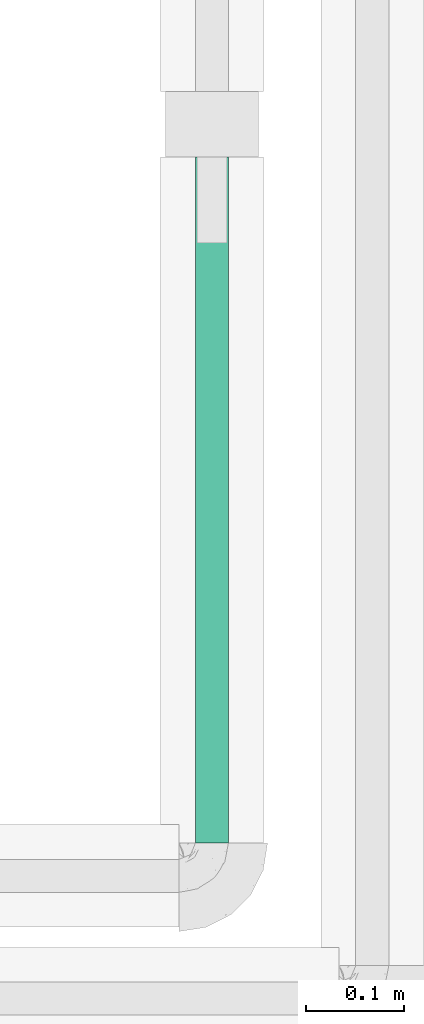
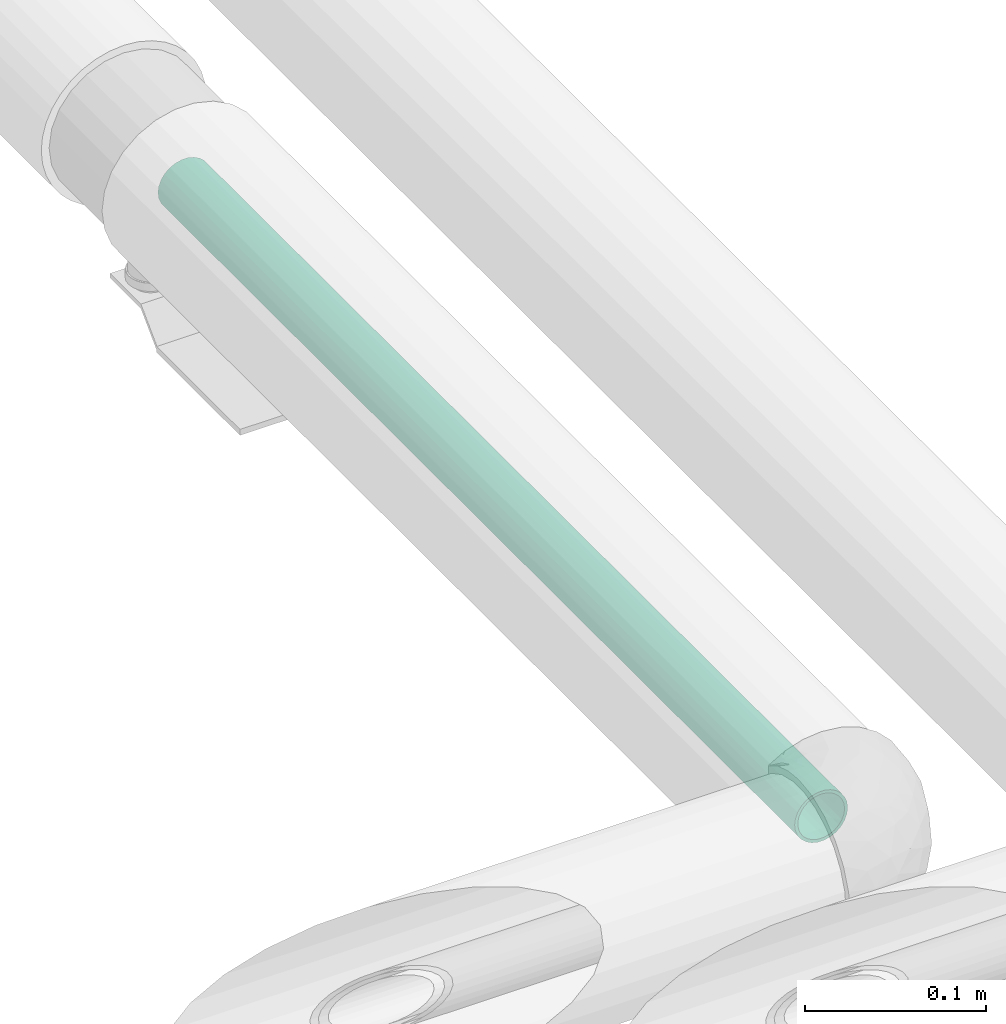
# One storey, part 32 of 83: 1 flow segment.
"""IFC2X3 building model written with IfcOpenShell, lengths in millimetres."""

from ifc_helpers import new_model, entity, si_unit, converted_unit, derived_unit, direction, frame, origin_with_axes, origin_2d_with_axis, place, context, subcontext, project, spatial, hollow_circle, extrude, source, transform, mapped, type_object, element, save


model = new_model("IFC2X3")

# Units and contexts
model_context = context("Model", 3, precision=0.01, world=frame((0.0, 4.29681676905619e-09, 0.0)), true_north=direction((4.01073788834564e-13, 1.0)))
plan_context = context("Plan", 3, precision=0.01, world=frame((0.0, 4.29681676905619e-09, 0.0)), true_north=direction((4.01073788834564e-13, 1.0)))
body_context = subcontext(model_context, "Body", "Model", "MODEL_VIEW")
ifc_project = project(units=[converted_unit("PLANEANGLEUNIT", "DEGREE", entity("IfcPositiveLengthMeasure", 0.0174532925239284), si_unit("PLANEANGLEUNIT", "RADIAN"), dimensions=[0, 0, 0, 0, 0, 0, 0]), si_unit("AREAUNIT", "SQUARE_METRE"), si_unit("LENGTHUNIT", "METRE", prefix="MILLI"), si_unit("MASSUNIT", "GRAM", prefix="KILO"), si_unit("POWERUNIT", "WATT"), si_unit("PRESSUREUNIT", "PASCAL"), si_unit("FORCEUNIT", "NEWTON", prefix="KILO"), si_unit("ELECTRICVOLTAGEUNIT", "VOLT"), si_unit("ELECTRICCURRENTUNIT", "AMPERE"), si_unit("THERMODYNAMICTEMPERATUREUNIT", "DEGREE_CELSIUS"), si_unit("TIMEUNIT", "SECOND"), si_unit("VOLUMEUNIT", "CUBIC_METRE"), derived_unit("LINEARVELOCITYUNIT", [(si_unit("LENGTHUNIT", "METRE"), 1), (si_unit("TIMEUNIT", "SECOND"), -1)]), derived_unit("VOLUMETRICFLOWRATEUNIT", [(si_unit("VOLUMEUNIT", "CUBIC_METRE"), 1), (si_unit("TIMEUNIT", "SECOND"), -1)]), derived_unit("THERMALTRANSMITTANCEUNIT", [(si_unit("POWERUNIT", "WATT"), 1), (si_unit("THERMODYNAMICTEMPERATUREUNIT", "KELVIN"), -1), (si_unit("AREAUNIT", "SQUARE_METRE"), -1)]), derived_unit("SOUNDPRESSUREUNIT", [(si_unit("PRESSUREUNIT", "PASCAL"), 1)])], contexts=[model_context, plan_context])

# Site, building, storey
site_placement = place(None, frame((0.0, -4.29681676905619e-09, 0.0), z_axis=(0.0, 0.0, 1.0), x_axis=(1.0, 0.0, 0.0)))
site = spatial("IfcSite", under=ifc_project, at=site_placement, Name="ENGM", CompositionType="ELEMENT")
building_placement = place(site_placement, frame((0.0, 4.29681676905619e-09, 0.0), z_axis=(0.0, 0.0, 1.0), x_axis=(1.0, 0.0, 0.0)))
building = spatial("IfcBuilding", under=site, at=building_placement, Name="TI", CompositionType="ELEMENT")
storey_placement = place(building_placement, frame((0.0, 0.0, 204000.0), z_axis=(0.0, 0.0, 1.0), x_axis=(1.0, 0.0, 0.0)))
storey = spatial("IfcBuildingStorey", under=building, at=storey_placement, Name="Nivå D", CompositionType="ELEMENT", Elevation=204000.0)

# Flow segment
pipe_segment_type = type_object("IfcPipeSegmentType", Name="Stålrør normaltykke", PredefinedType="RIGIDSEGMENT")
shared_shape = source(origin_with_axes(), body_context, "Body", "SweptSolid", [
    extrude(hollow_circle(Radius=16.9, WallThickness=2.0, at=origin_2d_with_axis()), frame((0.0, 0.0, 0.0), z_axis=(1.0, 0.0, 0.0), x_axis=(0.0, 1.0, 0.0)), (0.0, 0.0, 1.0), 701.7),
])
flow_segment_placement = place(storey_placement, frame((603920.1909, 693395.06264, 6040.51071999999), z_axis=(0.0, 0.0, 1.0), x_axis=(0.0, 1.0, 0.0)))
element("IfcFlowSegment", 1, at=flow_segment_placement, inside=storey, type_object=pipe_segment_type, Name="Stålrør normaltykke", context=body_context, shape_type="MappedRepresentation", body=[
    mapped(shared_shape, transform((0.0, 0.0, 0.0), scale=1.0)),
])

save(model, "model.ifc")
